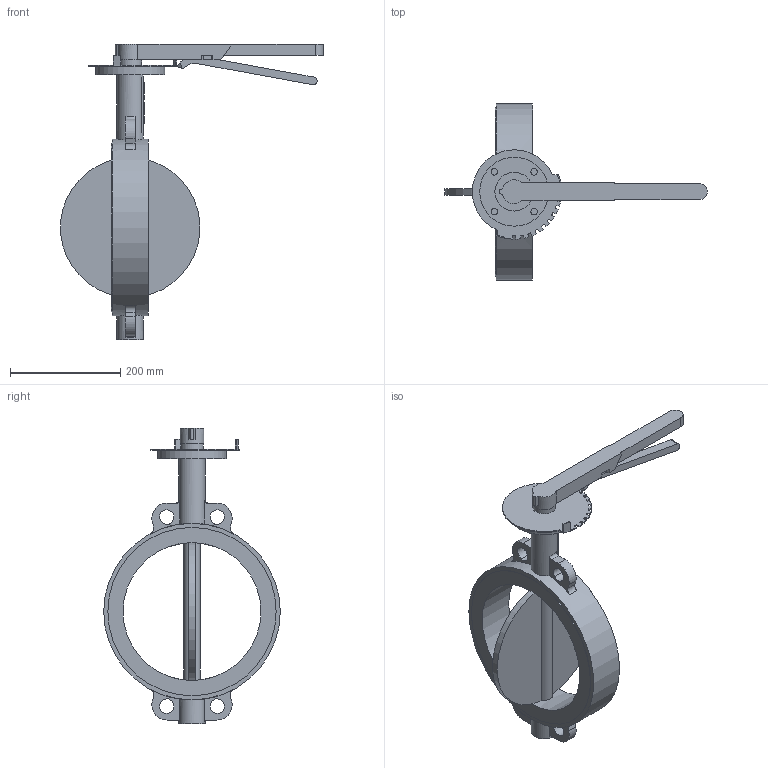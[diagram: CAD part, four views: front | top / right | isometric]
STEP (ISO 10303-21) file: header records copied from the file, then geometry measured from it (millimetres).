
FILE_DESCRIPTION(('STEP AP203'), '1');
FILE_NAME('青蜮铕 017WDN250', '', ('UNSPECIFIED'), ('UNSPECIFIED'), 'ASCON STEP Converter 1.6', 'ASCON Math Kernel', '');
FILE_SCHEMA(('CONFIG_CONTROL_DESIGN'));
Length unit declared in the file: millimetre
Bounding box: 476.07 x 320 x 535 mm (x, y, z)
Volume: 394327 mm3; surface area: 468315.4 mm2
Topology: 1 solids, 2 shells, 780 faces, 2308 edges, 1492 vertices
Faces by surface type: cylinder 537, plane 239, torus 4
Full cylindrical faces by diameter (mm): 12 x4, 28.6 x1, 41 x1, 48 x2, 70 x1, 125 x1, 250 x1, 305 x2, 320 x1
Entity records: 33794 total; most frequent: CARTESIAN_POINT 5648, DIRECTION 4967, ORIENTED_EDGE 4523, EDGE_CURVE 2293, AXIS2_PLACEMENT_3D 1919, VERTEX_POINT 1491, CIRCLE 1138, LINE 1129
